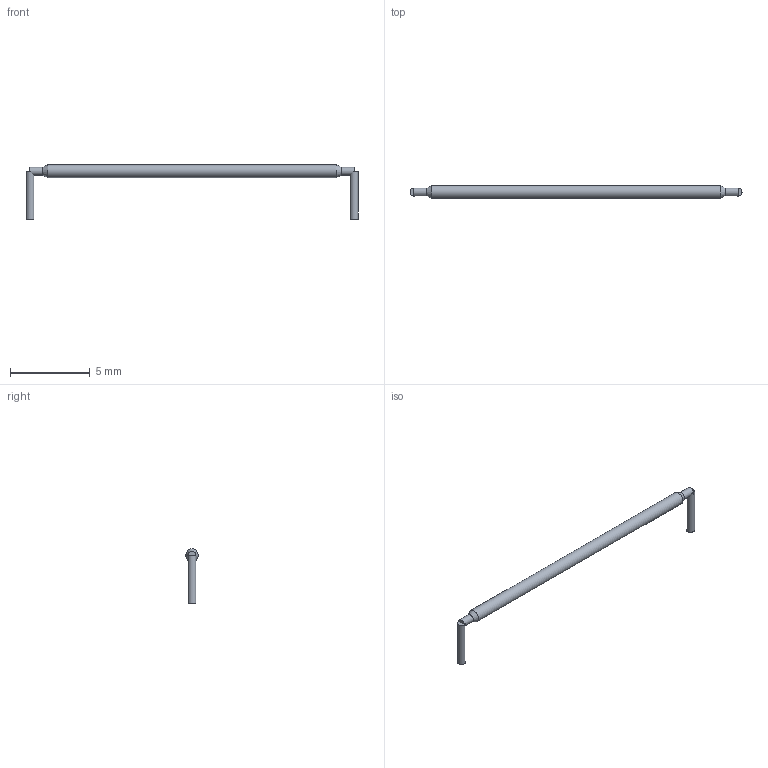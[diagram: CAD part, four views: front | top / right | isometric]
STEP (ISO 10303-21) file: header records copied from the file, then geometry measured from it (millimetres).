
FILE_DESCRIPTION(('FreeCAD Model'),'2;1');
FILE_NAME('Open CASCADE Shape Model','2026-04-07T19:07:43',('FreeCAD'),( 'FreeCAD'),'Open CASCADE STEP processor 7.8','FreeCAD','Unknown');
FILE_SCHEMA(('AUTOMOTIVE_DESIGN { 1 0 10303 214 1 1 1 1 }'));
Length unit declared in the file: millimetre
Products named in the file (1): Open CASCADE STEP translator 7.8 8
Bounding box: 20.82 x 0.8 x 3.4 mm (x, y, z)
Volume: 14.5 mm3; surface area: 89.8 mm2
Topology: 4 solids, 4 shells, 14 faces, 16 edges, 10 vertices
Faces by surface type: plane 8, cylinder 4, cone 2
Full cylindrical faces by diameter (mm): 0.5 x3, 0.8 x1
Entity records: 287 total; most frequent: DIRECTION 56, CARTESIAN_POINT 41, ORIENTED_EDGE 32, AXIS2_PLACEMENT_3D 25, EDGE_CURVE 16, ADVANCED_FACE 14, FACE_BOUND 14, EDGE_LOOP 14
